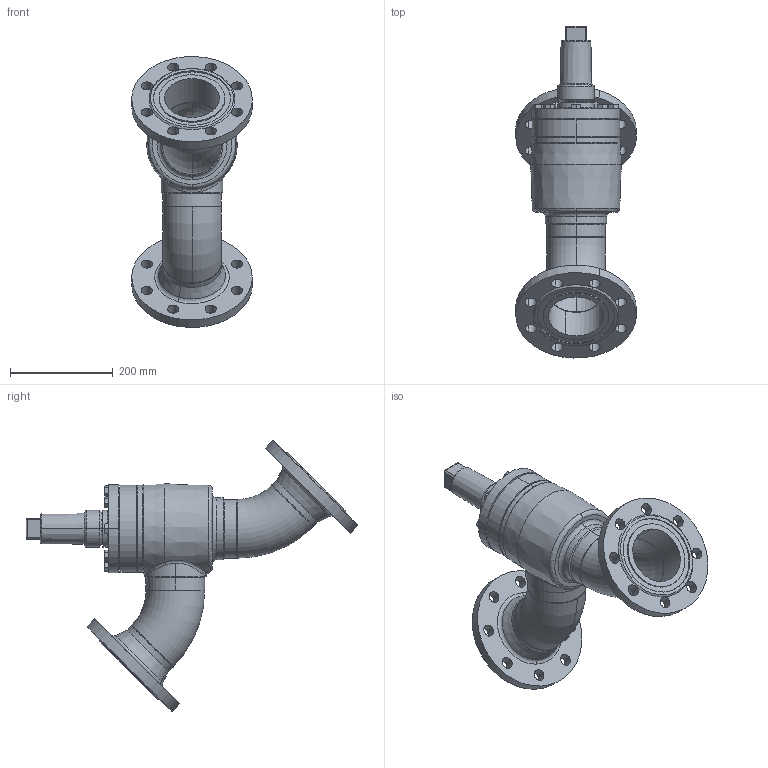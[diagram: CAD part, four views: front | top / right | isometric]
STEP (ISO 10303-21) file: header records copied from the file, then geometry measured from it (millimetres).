
FILE_DESCRIPTION (( 'STEP AP214' ), '1' );
FILE_NAME ('AVR26320D19-DN100_DIN-FL-N_PS40.STEP', '2007-01-08T07:18:00', ( 'Herr Grams' ), ( 'AWP GmbH' ), 'SwSTEP 2.0', 'SolidWorks 2002296', '' );
FILE_SCHEMA (( 'AUTOMOTIVE_DESIGN' ));
Length unit declared in the file: millimetre
Products named in the file (17): AVR26320D19-DN100_DIN-FL-N_PS40; Gehäuse-kpl16320-DN100_DIN_PS40_Standard; Gehäuse-kpl16300-DN100_R1_Standard; Gehäuse-kpl16400-DN100_R1_Standard; Gehäuse16400-DN100_Standard; Kopfstück16300-DN100_Standard; bead-DN100-1_Standard; Rohrbogen 45°_Rohrbogen-DN100-45°; bead-DN100-2_Standard; bead-DN100-3_Standard; bead-DN100-6_Standard; bead-DN100-7_Standard; Flansch-DIN-Nut_PS40_DIN-Flansch-DN100_PS40-Nut; AVR26300E19_Deck+Schr-DN100_Standard; Deckel26300E19-DN100_Standard; Sechskantschraube-DIN933_M12x 35; Kappe16402_DN080-100_Standard
Assembly tree (25 placements, depth 5):
  AVR26320D19-DN100_DIN-FL-N_PS40
    AVR26300E19_Deck+Schr-DN100_Standard
      Sechskantschraube-DIN933_M12x 35  x8
      Deckel26300E19-DN100_Standard
    Kappe16402_DN080-100_Standard
    Gehäuse-kpl16320-DN100_DIN_PS40_Standard
      bead-DN100-6_Standard
      bead-DN100-7_Standard
      Flansch-DIN-Nut_PS40_DIN-Flansch-DN100_PS40-Nut  x2
      Gehäuse-kpl16300-DN100_R1_Standard
        Rohrbogen 45°_Rohrbogen-DN100-45°  x2
        bead-DN100-2_Standard
        bead-DN100-3_Standard
        Gehäuse-kpl16400-DN100_R1_Standard
          Kopfstück16300-DN100_Standard
          Gehäuse16400-DN100_Standard
          bead-DN100-1_Standard
Bounding box: 234.78 x 647.03 x 528.11 mm (x, y, z)
Volume: 4785351.5 mm3; surface area: 892335.8 mm2
Topology: 21 solids, 21 shells, 467 faces, 1042 edges, 633 vertices
Faces by surface type: cylinder 147, cone 142, plane 128, bspline 26, torus 24
Entity records: 21423 total; most frequent: CARTESIAN_POINT 14832, DIRECTION 1241, ORIENTED_EDGE 1124, EDGE_CURVE 562, AXIS2_PLACEMENT_3D 546, VERTEX_POINT 351, EDGE_LOOP 313, CIRCLE 292
